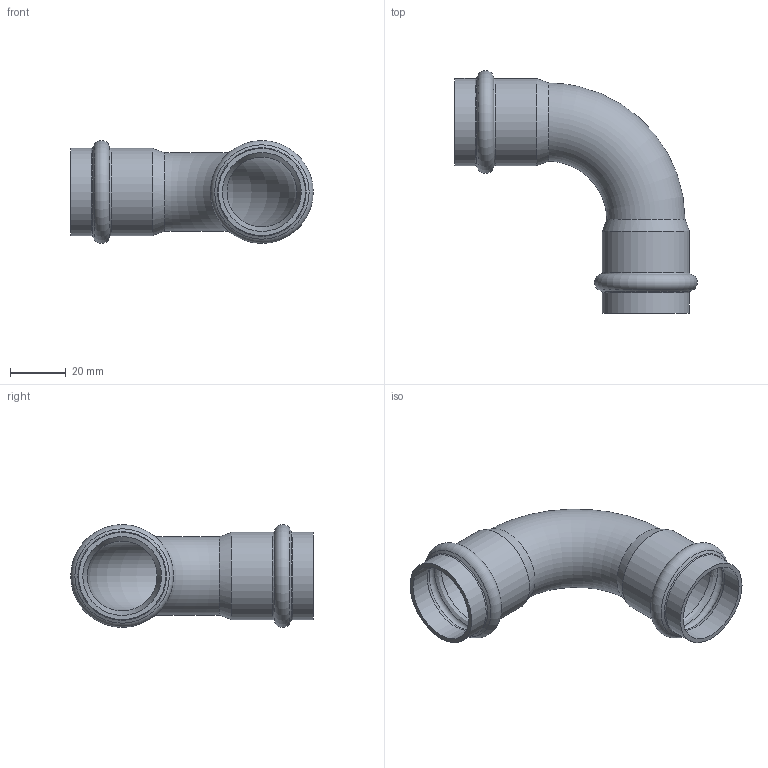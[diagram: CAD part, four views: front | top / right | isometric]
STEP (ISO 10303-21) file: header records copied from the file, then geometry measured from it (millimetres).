
FILE_DESCRIPTION((''),'2;1');
FILE_NAME('G:\Technics\CAD\Bauteile\028\69002A28(1).stp','2008-02-25T08:37:32',('herberg'),(''),'Autodesk Inventor 2008','Autodesk Inventor 2008','');
FILE_SCHEMA(('AUTOMOTIVE_DESIGN { 1 0 10303 214 1 1 1 1 }'));
Length unit declared in the file: millimetre
Products named in the file (1): 69002A28(1)
Bounding box: 86.79 x 86.79 x 36.79 mm (x, y, z)
Volume: 17230.9 mm3; surface area: 23255 mm2
Topology: 1 solids, 1 shells, 32 faces, 66 edges, 36 vertices
Faces by surface type: cone 8, cylinder 8, bspline 8, torus 6, plane 2
Full cylindrical faces by diameter (mm): 28.2 x4, 31.2 x4
Entity records: 1122 total; most frequent: CARTESIAN_POINT 589, DIRECTION 106, ORIENTED_EDGE 64, EDGE_LOOP 64, AXIS2_PLACEMENT_3D 53, VERTEX_POINT 32, EDGE_CURVE 32, FACE_OUTER_BOUND 32
